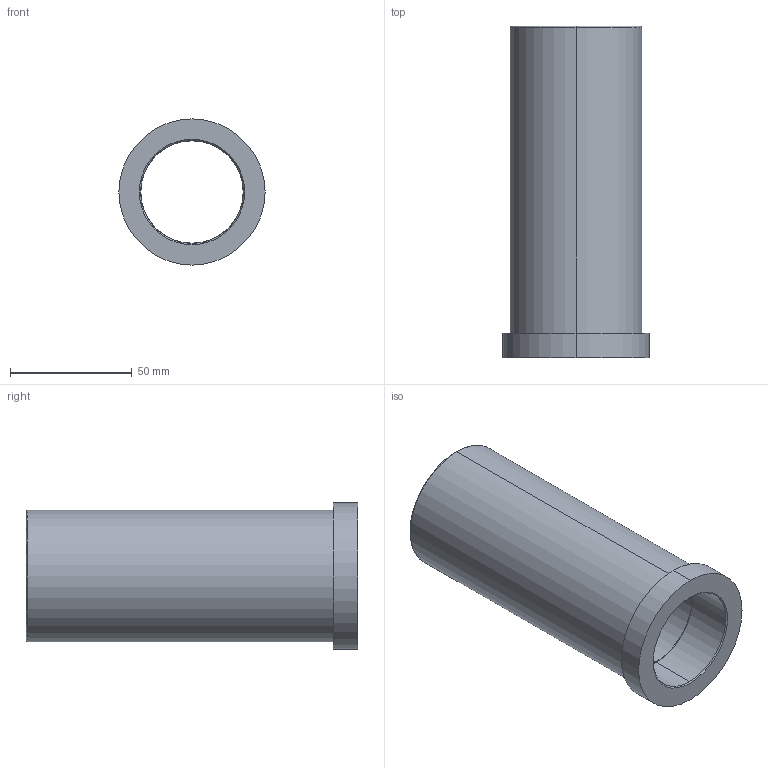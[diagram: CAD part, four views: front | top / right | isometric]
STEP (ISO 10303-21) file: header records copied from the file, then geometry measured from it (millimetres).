
FILE_DESCRIPTION (( 'STEP AP214' ), '1' );
FILE_NAME ('BR11W 42 x 136.STEP', '2020-07-16T11:32:57', ( 'August' ), ( '' ), 'SwSTEP 2.0', 'SolidWorks 2018', '' );
FILE_SCHEMA (( 'AUTOMOTIVE_DESIGN' ));
Length unit declared in the file: millimetre
Products named in the file (1): BR11W 42 x 136
Bounding box: 60 x 136 x 60 mm (x, y, z)
Volume: 128116.1 mm3; surface area: 43979.1 mm2
Topology: 1 solids, 1 shells, 19 faces, 38 edges, 22 vertices
Faces by surface type: cylinder 8, cone 6, plane 3, torus 2
Entity records: 534 total; most frequent: DIRECTION 102, CARTESIAN_POINT 80, ORIENTED_EDGE 76, AXIS2_PLACEMENT_3D 44, EDGE_CURVE 38, CIRCLE 24, VERTEX_POINT 22, EDGE_LOOP 22
